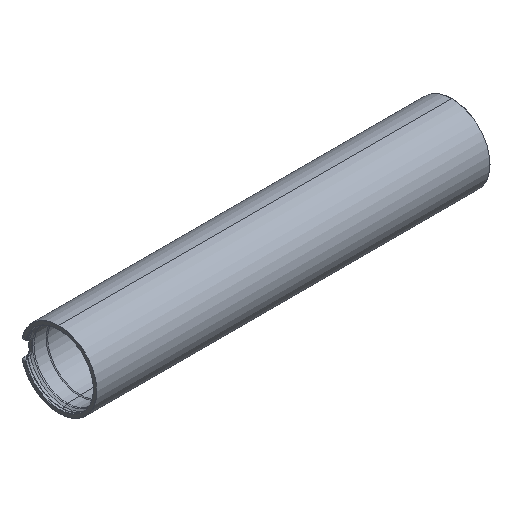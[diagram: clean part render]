
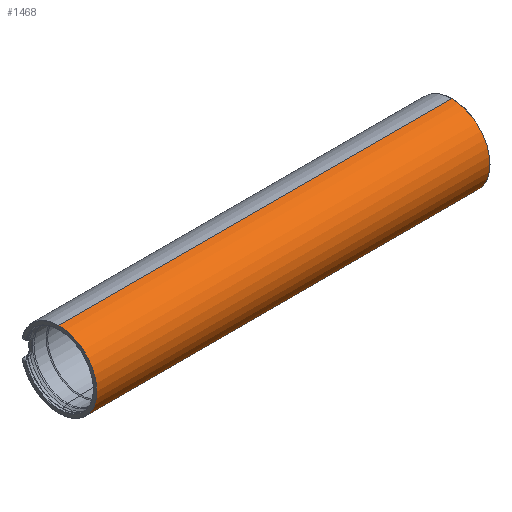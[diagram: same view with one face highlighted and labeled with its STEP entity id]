
A CAD part, isometric view. The second image highlights one B-rep face of the part: STEP entity #1468.
In plain terms, the highlighted cylindrical face has radius 29 mm (diameter 58 mm), a partial arc.
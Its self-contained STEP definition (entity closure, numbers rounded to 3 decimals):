
#117 = DIRECTION ( 'NONE',  ( 1., 0., 0. ) ) ;
#299 = CYLINDRICAL_SURFACE ( 'NONE', #1981, 29. ) ;
#506 = DIRECTION ( 'NONE',  ( 0., 0., 1. ) ) ;
#556 = VERTEX_POINT ( 'NONE', #1098 ) ;
#579 = VERTEX_POINT ( 'NONE', #2752 ) ;
#645 = ORIENTED_EDGE ( 'NONE', *, *, #1966, .T. ) ;
#668 = CARTESIAN_POINT ( 'NONE',  ( -299.85, 0., 0. ) ) ;
#677 = DIRECTION ( 'NONE',  ( -1., 0., 0. ) ) ;
#744 = LINE ( 'NONE', #2397, #2472 ) ;
#900 = CARTESIAN_POINT ( 'NONE',  ( -76.2, 0., 29. ) ) ;
#925 = AXIS2_PLACEMENT_3D ( 'NONE', #2806, #677, #2570 ) ;
#949 = ORIENTED_EDGE ( 'NONE', *, *, #2091, .T. ) ;
#1088 = VERTEX_POINT ( 'NONE', #2774 ) ;
#1098 = CARTESIAN_POINT ( 'NONE',  ( -0.15, 0., 29. ) ) ;
#1141 = VERTEX_POINT ( 'NONE', #2327 ) ;
#1214 = DIRECTION ( 'NONE',  ( -1., 0., 0. ) ) ;
#1219 = AXIS2_PLACEMENT_3D ( 'NONE', #668, #117, #2251 ) ;
#1468 = ADVANCED_FACE ( 'NONE', ( #2711 ), #299, .T. ) ;
#1529 = CIRCLE ( 'NONE', #925, 29. ) ;
#1676 = VECTOR ( 'NONE', #2531, 1000. ) ;
#1779 = CIRCLE ( 'NONE', #1219, 29. ) ;
#1902 = ORIENTED_EDGE ( 'NONE', *, *, #2035, .F. ) ;
#1966 = EDGE_CURVE ( 'NONE', #1141, #556, #1529, .T. ) ;
#1977 = DIRECTION ( 'NONE',  ( -1., 0., 0. ) ) ;
#1981 = AXIS2_PLACEMENT_3D ( 'NONE', #2656, #1977, #506 ) ;
#2029 = LINE ( 'NONE', #900, #1676 ) ;
#2035 = EDGE_CURVE ( 'NONE', #1141, #579, #744, .T. ) ;
#2091 = EDGE_CURVE ( 'NONE', #1088, #579, #1779, .T. ) ;
#2251 = DIRECTION ( 'NONE',  ( 0., 0., 1. ) ) ;
#2327 = CARTESIAN_POINT ( 'NONE',  ( -0.15, 0., -29. ) ) ;
#2397 = CARTESIAN_POINT ( 'NONE',  ( -76.2, 0., -29. ) ) ;
#2472 = VECTOR ( 'NONE', #1214, 1000. ) ;
#2477 = EDGE_LOOP ( 'NONE', ( #1902, #645, #2777, #949 ) ) ;
#2531 = DIRECTION ( 'NONE',  ( -1., 0., 0. ) ) ;
#2570 = DIRECTION ( 'NONE',  ( 0., 0., -1. ) ) ;
#2656 = CARTESIAN_POINT ( 'NONE',  ( -76.2, 0., 0. ) ) ;
#2711 = FACE_OUTER_BOUND ( 'NONE', #2477, .T. ) ;
#2752 = CARTESIAN_POINT ( 'NONE',  ( -299.85, 0., -29. ) ) ;
#2774 = CARTESIAN_POINT ( 'NONE',  ( -299.85, 0., 29. ) ) ;
#2777 = ORIENTED_EDGE ( 'NONE', *, *, #2859, .T. ) ;
#2806 = CARTESIAN_POINT ( 'NONE',  ( -0.15, 0., 0. ) ) ;
#2859 = EDGE_CURVE ( 'NONE', #556, #1088, #2029, .T. ) ;
